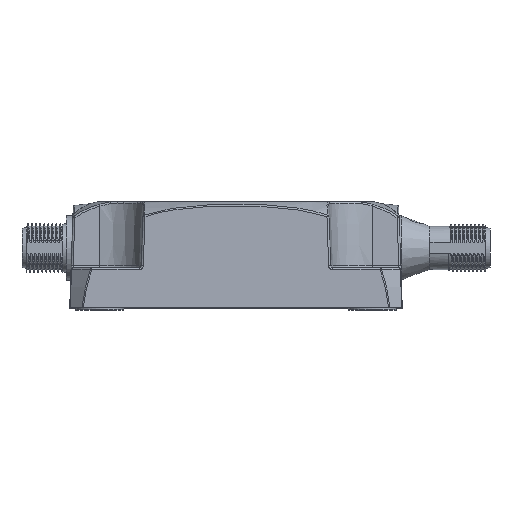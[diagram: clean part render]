
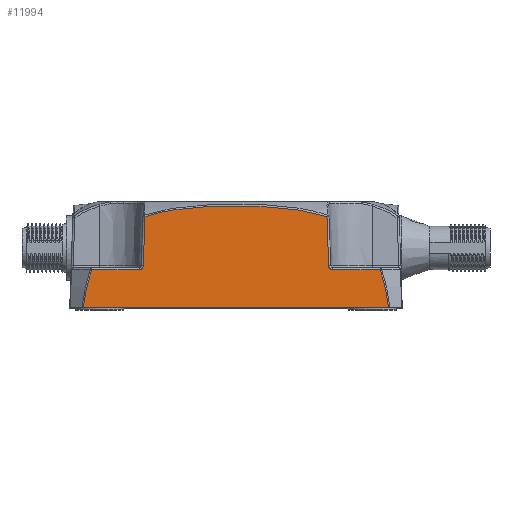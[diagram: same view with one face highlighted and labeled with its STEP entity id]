
A CAD part, top view. The second image highlights one B-rep face of the part: STEP entity #11994.
In plain terms, the highlighted planar face has unit normal (0, 0.035, 0.999).
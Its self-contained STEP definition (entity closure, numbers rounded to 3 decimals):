
#1777 = EDGE_CURVE ( 'NONE', #25870, #44406, #38402, .T. ) ;
#1989 = ORIENTED_EDGE ( 'NONE', *, *, #34153, .T. ) ;
#2169 = ORIENTED_EDGE ( 'NONE', *, *, #35441, .F. ) ;
#2220 = EDGE_CURVE ( 'NONE', #7262, #39059, #12263, .T. ) ;
#2638 = CARTESIAN_POINT ( 'NONE',  ( 23.421, 2.764, 29.421 ) ) ;
#2660 = CARTESIAN_POINT ( 'NONE',  ( 22.705, 23.276, 28.705 ) ) ;
#2749 = CARTESIAN_POINT ( 'NONE',  ( -38.103, 0.5, 29.5 ) ) ;
#2922 = CARTESIAN_POINT ( 'NONE',  ( -13.37, 25.268, 28.635 ) ) ;
#4149 = EDGE_CURVE ( 'NONE', #27871, #25870, #25416, .T. ) ;
#6155 = PLANE ( 'NONE',  #7309 ) ;
#6580 = CARTESIAN_POINT ( 'NONE',  ( 24.134, 10.017, 29.168 ) ) ;
#7119 = CARTESIAN_POINT ( 'NONE',  ( -7.647, 25.747, 28.618 ) ) ;
#7249 = CARTESIAN_POINT ( 'NONE',  ( 23.134, 10.983, 29.134 ) ) ;
#7262 = VERTEX_POINT ( 'NONE', #45973 ) ;
#7309 = AXIS2_PLACEMENT_3D ( 'NONE', #23258, #40351, #34738 ) ;
#7431 = CARTESIAN_POINT ( 'NONE',  ( -41.5, 0.5, 29.5 ) ) ;
#7900 = ORIENTED_EDGE ( 'NONE', *, *, #40106, .F. ) ;
#8400 = CARTESIAN_POINT ( 'NONE',  ( 23.651, 10.017, 29.168 ) ) ;
#8426 = VERTEX_POINT ( 'NONE', #9809 ) ;
#9173 = CARTESIAN_POINT ( 'NONE',  ( -36.554, 8.482, 29.221 ) ) ;
#9371 = CARTESIAN_POINT ( 'NONE',  ( -23.154, 10.413, 29.154 ) ) ;
#9785 = EDGE_CURVE ( 'NONE', #31533, #8426, #42619, .T. ) ;
#9808 = ORIENTED_EDGE ( 'NONE', *, *, #2220, .T. ) ;
#9809 = CARTESIAN_POINT ( 'NONE',  ( -22.705, 23.276, 28.705 ) ) ;
#11338 = CARTESIAN_POINT ( 'NONE',  ( 3.821, 25.903, 28.613 ) ) ;
#11745 = CARTESIAN_POINT ( 'NONE',  ( 23.564, 10.017, 29.168 ) ) ;
#11994 = ADVANCED_FACE ( 'NONE', ( #39797 ), #6155, .T. ) ;
#12176 = VECTOR ( 'NONE', #43150, 1000. ) ;
#12247 = CARTESIAN_POINT ( 'NONE',  ( 36.554, 8.482, 29.221 ) ) ;
#12263 = B_SPLINE_CURVE_WITH_KNOTS ( 'NONE', 3,
 ( #25406, #9173, #13084, #47015, #21782, #42534 ),
 .UNSPECIFIED., .F., .F.,
 ( 4, 2, 4 ),
 ( 0., 0.005, 0.01 ),
 .UNSPECIFIED. ) ;
#13066 = CARTESIAN_POINT ( 'NONE',  ( 36.979, 6.911, 29.276 ) ) ;
#13084 = CARTESIAN_POINT ( 'NONE',  ( -36.979, 6.911, 29.276 ) ) ;
#13149 = DIRECTION ( 'NONE',  ( -1., 0., 0. ) ) ;
#13575 = CARTESIAN_POINT ( 'NONE',  ( -24.134, 10.017, 29.168 ) ) ;
#15205 = CARTESIAN_POINT ( 'NONE',  ( -24.134, 10.017, 29.168 ) ) ;
#15300 = DIRECTION ( 'NONE',  ( 1., 0., 0. ) ) ;
#16339 = CARTESIAN_POINT ( 'NONE',  ( -15.273, 25.027, 28.644 ) ) ;
#16499 =( BOUNDED_CURVE ( )  B_SPLINE_CURVE ( 3, ( #7249, #45940, #11745, #25438 ),
 .UNSPECIFIED., .F., .F. ) 
 B_SPLINE_CURVE_WITH_KNOTS ( ( 4, 4 ),
 ( 1.606, 3.142 ),
 .UNSPECIFIED. ) 
 CURVE ( )  GEOMETRIC_REPRESENTATION_ITEM ( )  RATIONAL_B_SPLINE_CURVE ( ( 1., 0.813, 0.813, 1. ) ) 
 REPRESENTATION_ITEM ( '' )  );
#17097 = LINE ( 'NONE', #17365, #36051 ) ;
#17365 = CARTESIAN_POINT ( 'NONE',  ( -23.522, -0.127, 29.522 ) ) ;
#21227 = CARTESIAN_POINT ( 'NONE',  ( 37.659, 3.725, 29.387 ) ) ;
#21782 = CARTESIAN_POINT ( 'NONE',  ( -37.912, 2.118, 29.444 ) ) ;
#23132 = VECTOR ( 'NONE', #36798, 1000. ) ;
#23258 = CARTESIAN_POINT ( 'NONE',  ( -41.5, 0.5, 29.5 ) ) ;
#25406 = CARTESIAN_POINT ( 'NONE',  ( -36.006, 10.017, 29.168 ) ) ;
#25416 = B_SPLINE_CURVE_WITH_KNOTS ( 'NONE', 3,
 ( #54575, #33529, #21227, #13066, #12247, #38324 ),
 .UNSPECIFIED., .F., .F.,
 ( 4, 2, 4 ),
 ( 0., 0.005, 0.01 ),
 .UNSPECIFIED. ) ;
#25438 = CARTESIAN_POINT ( 'NONE',  ( 24.134, 10.017, 29.168 ) ) ;
#25694 = CARTESIAN_POINT ( 'NONE',  ( 23.134, 10.983, 29.134 ) ) ;
#25870 = VERTEX_POINT ( 'NONE', #51031 ) ;
#26453 = CARTESIAN_POINT ( 'NONE',  ( -23.134, 10.983, 29.134 ) ) ;
#26540 = ORIENTED_EDGE ( 'NONE', *, *, #9785, .T. ) ;
#26848 = CARTESIAN_POINT ( 'NONE',  ( -41.5, 10.017, 29.168 ) ) ;
#27087 = VECTOR ( 'NONE', #13149, 1000. ) ;
#27871 = VERTEX_POINT ( 'NONE', #51459 ) ;
#28945 = CARTESIAN_POINT ( 'NONE',  ( 7.637, 25.747, 28.618 ) ) ;
#30523 = DIRECTION ( 'NONE',  ( -0.035, -0.999, 0.035 ) ) ;
#31078 = VERTEX_POINT ( 'NONE', #25694 ) ;
#31533 = VERTEX_POINT ( 'NONE', #52485 ) ;
#32137 = ORIENTED_EDGE ( 'NONE', *, *, #45846, .T. ) ;
#32616 = CARTESIAN_POINT ( 'NONE',  ( -3.821, 25.903, 28.613 ) ) ;
#33157 = CARTESIAN_POINT ( 'NONE',  ( 20.884, 23.898, 28.683 ) ) ;
#33232 = VERTEX_POINT ( 'NONE', #36035 ) ;
#33478 = LINE ( 'NONE', #7431, #46841 ) ;
#33529 = CARTESIAN_POINT ( 'NONE',  ( 37.912, 2.118, 29.444 ) ) ;
#34153 = EDGE_CURVE ( 'NONE', #8426, #33232, #17097, .T. ) ;
#34738 = DIRECTION ( 'NONE',  ( 1., 0., 0. ) ) ;
#35012 = EDGE_CURVE ( 'NONE', #39059, #27871, #33478, .T. ) ;
#35423 = CARTESIAN_POINT ( 'NONE',  ( -23.564, 10.017, 29.168 ) ) ;
#35441 = EDGE_CURVE ( 'NONE', #45563, #33232, #43655, .T. ) ;
#35469 = ORIENTED_EDGE ( 'NONE', *, *, #1777, .T. ) ;
#36035 = CARTESIAN_POINT ( 'NONE',  ( -23.134, 10.983, 29.134 ) ) ;
#36051 = VECTOR ( 'NONE', #30523, 1000. ) ;
#36798 = DIRECTION ( 'NONE',  ( -0.035, 0.999, -0.035 ) ) ;
#37092 = CARTESIAN_POINT ( 'NONE',  ( -19.03, 24.34, 28.667 ) ) ;
#37379 = CARTESIAN_POINT ( 'NONE',  ( -20.887, 23.897, 28.683 ) ) ;
#37657 = CARTESIAN_POINT ( 'NONE',  ( 19.025, 24.342, 28.667 ) ) ;
#38324 = CARTESIAN_POINT ( 'NONE',  ( 36.006, 10.017, 29.168 ) ) ;
#38402 = LINE ( 'NONE', #8400, #27087 ) ;
#39059 = VERTEX_POINT ( 'NONE', #2749 ) ;
#39797 = FACE_OUTER_BOUND ( 'NONE', #41196, .T. ) ;
#40106 = EDGE_CURVE ( 'NONE', #31078, #44406, #16499, .T. ) ;
#40351 = DIRECTION ( 'NONE',  ( 0., 0.035, 0.999 ) ) ;
#40451 = ORIENTED_EDGE ( 'NONE', *, *, #4149, .T. ) ;
#41196 = EDGE_LOOP ( 'NONE', ( #32137, #9808, #43022, #40451, #35469, #7900, #45174, #26540, #1989, #2169 ) ) ;
#41301 = CARTESIAN_POINT ( 'NONE',  ( -9.558, 25.628, 28.623 ) ) ;
#42534 = CARTESIAN_POINT ( 'NONE',  ( -38.103, 0.5, 29.5 ) ) ;
#42619 = B_SPLINE_CURVE_WITH_KNOTS ( 'NONE', 3,
 ( #2660, #33157, #37657, #54748, #50538, #53669, #28945, #11338, #50269, #45268, #32616, #7119, #41301, #2922, #16339, #37092, #37379, #54193 ),
 .UNSPECIFIED., .F., .F.,
 ( 4, 2, 2, 2, 2, 2, 2, 2, 4 ),
 ( 0., 0.006, 0.011, 0.017, 0.023, 0.029, 0.034, 0.04, 0.046 ),
 .UNSPECIFIED. ) ;
#43022 = ORIENTED_EDGE ( 'NONE', *, *, #35012, .T. ) ;
#43150 = DIRECTION ( 'NONE',  ( -1., 0., 0. ) ) ;
#43655 =( BOUNDED_CURVE ( )  B_SPLINE_CURVE ( 3, ( #13575, #35423, #9371, #26453 ),
 .UNSPECIFIED., .F., .F. ) 
 B_SPLINE_CURVE_WITH_KNOTS ( ( 4, 4 ),
 ( 3.142, 4.677 ),
 .UNSPECIFIED. ) 
 CURVE ( )  GEOMETRIC_REPRESENTATION_ITEM ( )  RATIONAL_B_SPLINE_CURVE ( ( 1., 0.813, 0.813, 1. ) ) 
 REPRESENTATION_ITEM ( '' )  );
#44406 = VERTEX_POINT ( 'NONE', #6580 ) ;
#45174 = ORIENTED_EDGE ( 'NONE', *, *, #50056, .T. ) ;
#45268 = CARTESIAN_POINT ( 'NONE',  ( -1.909, 25.939, 28.612 ) ) ;
#45563 = VERTEX_POINT ( 'NONE', #15205 ) ;
#45846 = EDGE_CURVE ( 'NONE', #45563, #7262, #52661, .T. ) ;
#45940 = CARTESIAN_POINT ( 'NONE',  ( 23.154, 10.413, 29.154 ) ) ;
#45973 = CARTESIAN_POINT ( 'NONE',  ( -36.006, 10.017, 29.168 ) ) ;
#46841 = VECTOR ( 'NONE', #15300, 1000. ) ;
#47015 = CARTESIAN_POINT ( 'NONE',  ( -37.659, 3.725, 29.387 ) ) ;
#50056 = EDGE_CURVE ( 'NONE', #31078, #31533, #53647, .T. ) ;
#50269 = CARTESIAN_POINT ( 'NONE',  ( 1.912, 25.939, 28.612 ) ) ;
#50538 = CARTESIAN_POINT ( 'NONE',  ( 13.354, 25.27, 28.635 ) ) ;
#51031 = CARTESIAN_POINT ( 'NONE',  ( 36.006, 10.017, 29.168 ) ) ;
#51459 = CARTESIAN_POINT ( 'NONE',  ( 38.103, 0.5, 29.5 ) ) ;
#52485 = CARTESIAN_POINT ( 'NONE',  ( 22.705, 23.276, 28.705 ) ) ;
#52661 = LINE ( 'NONE', #26848, #12176 ) ;
#53647 = LINE ( 'NONE', #2638, #23132 ) ;
#53669 = CARTESIAN_POINT ( 'NONE',  ( 9.544, 25.629, 28.622 ) ) ;
#54193 = CARTESIAN_POINT ( 'NONE',  ( -22.705, 23.276, 28.705 ) ) ;
#54575 = CARTESIAN_POINT ( 'NONE',  ( 38.103, 0.5, 29.5 ) ) ;
#54748 = CARTESIAN_POINT ( 'NONE',  ( 15.261, 25.028, 28.643 ) ) ;
